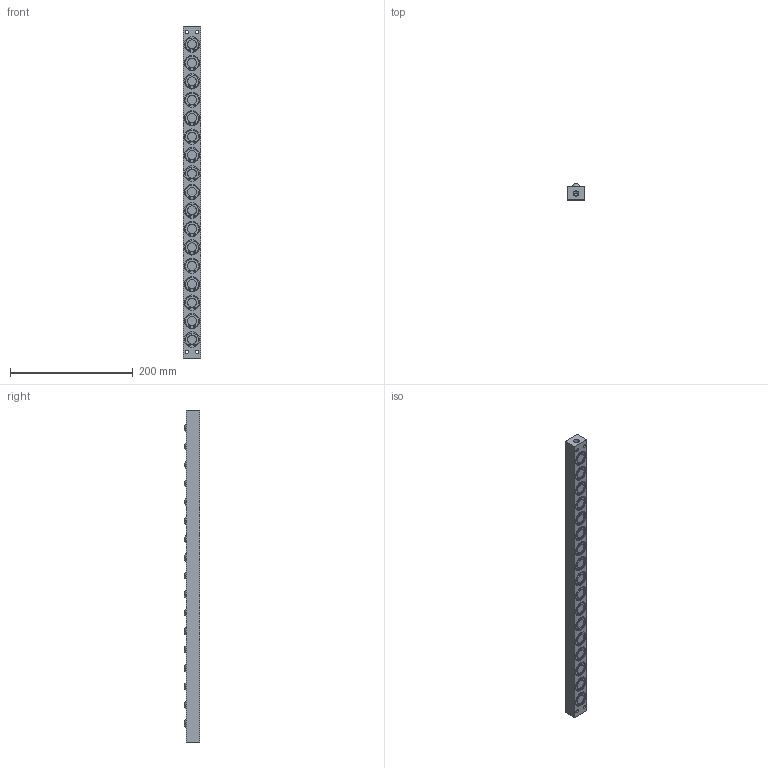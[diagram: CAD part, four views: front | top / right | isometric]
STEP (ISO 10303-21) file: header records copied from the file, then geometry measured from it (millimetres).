
FILE_DESCRIPTION (( 'STEP AP203' ), '1' );
FILE_NAME ('PVL17S-17.STEP', '2015-12-24T06:46:15', ( '' ), ( '' ), 'SwSTEP 2.0', 'SolidWorks 2013', '' );
FILE_SCHEMA (( 'CONFIG_CONTROL_DESIGN' ));
Length unit declared in the file: millimetre
Products named in the file (1): PVL17S-17
Bounding box: 28 x 26 x 540 mm (x, y, z)
Volume: 324899.9 mm3; surface area: 74642.9 mm2
Topology: 1 solids, 1 shells, 560 faces, 1317 edges, 882 vertices
Faces by surface type: cylinder 358, plane 164, sphere 34, cone 4
Entity records: 16622 total; most frequent: DIRECTION 3259, CARTESIAN_POINT 2758, ORIENTED_EDGE 2630, AXIS2_PLACEMENT_3D 1383, EDGE_CURVE 1315, VERTEX_POINT 882, CIRCLE 822, EDGE_LOOP 693
